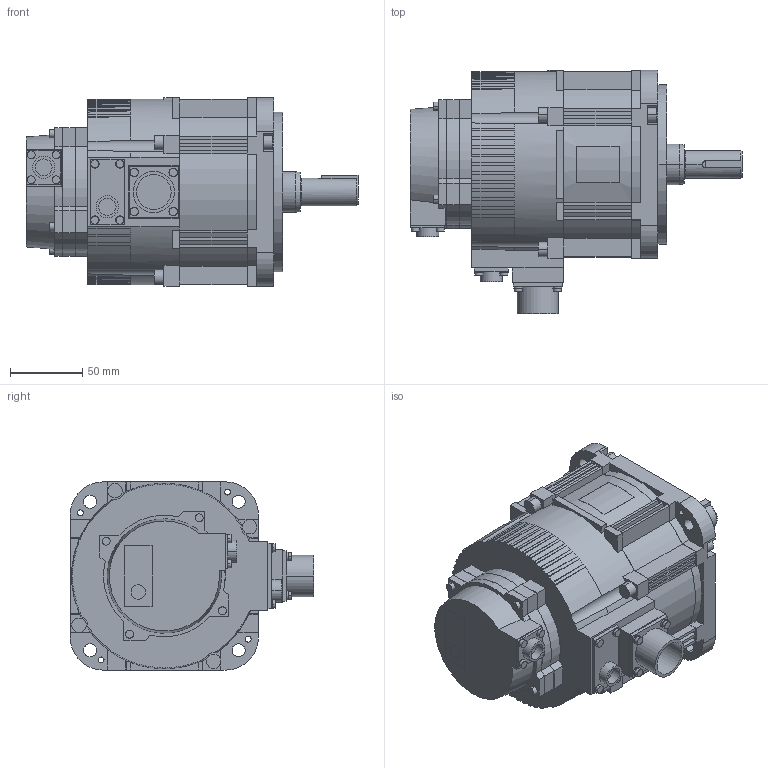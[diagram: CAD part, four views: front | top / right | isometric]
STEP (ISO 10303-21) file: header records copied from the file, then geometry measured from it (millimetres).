
FILE_DESCRIPTION( (''), '2;1');
FILE_NAME ('SGMXG-09AUA6CC2.stp','2022-03-02T11:30:34',(''),(''),'spGate 15.6.6','','');
FILE_SCHEMA (('AUTOMOTIVE_DESIGN'));
Length unit declared in the file: millimetre
Products named in the file (3): Assembly; SGMXG-09AUA6CC2-prt0; SGMXG-09AUA6CC2-prt1
Assembly tree (2 placements, depth 2):
  Assembly
    SGMXG-09AUA6CC2-prt0
    SGMXG-09AUA6CC2-prt1
Bounding box: 229.2 x 168.2 x 130 mm (x, y, z)
Volume: 2052525.1 mm3; surface area: 144501.8 mm2
Topology: 2 solids, 2 shells, 686 faces, 1850 edges, 1226 vertices
Faces by surface type: plane 438, cylinder 202, bspline 46
Entity records: 36411 total; most frequent: CARTESIAN_POINT 4500, ORIENTED_EDGE 3700, DIRECTION 3519, COLOUR_RGB 2538, PRESENTATION_STYLE_ASSIGNMENT 2538, STYLED_ITEM 2538, EDGE_CURVE 1850, DRAUGHTING_PRE_DEFINED_CURVE_FONT 1850
